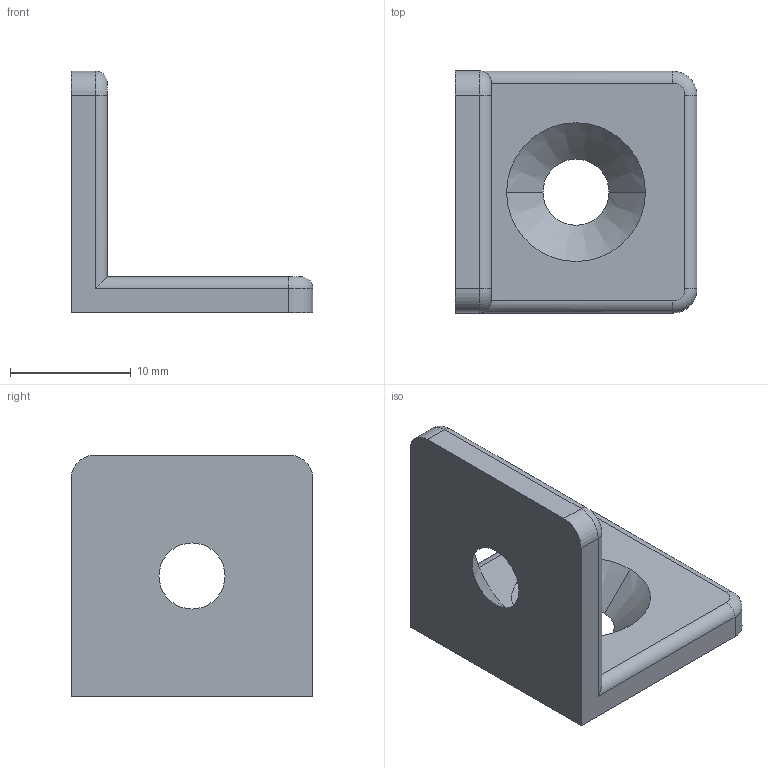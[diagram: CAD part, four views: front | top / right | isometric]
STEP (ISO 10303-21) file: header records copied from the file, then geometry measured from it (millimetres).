
FILE_DESCRIPTION (( 'STEP AP203' ), '1' );
FILE_NAME ('0105W20SCH.STEP', '2024-09-03T09:20:51', ( 'Windows-Benutzer' ), ( '' ), 'SwSTEP 2.0', 'SolidWorks 2024', '' );
FILE_SCHEMA (( 'CONFIG_CONTROL_DESIGN' ));
Length unit declared in the file: millimetre
Products named in the file (1): 0105W20SCH
Bounding box: 20 x 20 x 20 mm (x, y, z)
Volume: 1835.2 mm3; surface area: 1731.9 mm2
Topology: 1 solids, 1 shells, 26 faces, 62 edges, 38 vertices
Faces by surface type: cylinder 10, plane 8, cone 4, torus 4
Entity records: 839 total; most frequent: DIRECTION 142, CARTESIAN_POINT 133, ORIENTED_EDGE 124, EDGE_CURVE 62, AXIS2_PLACEMENT_3D 55, VERTEX_POINT 38, LINE 32, VECTOR 32
